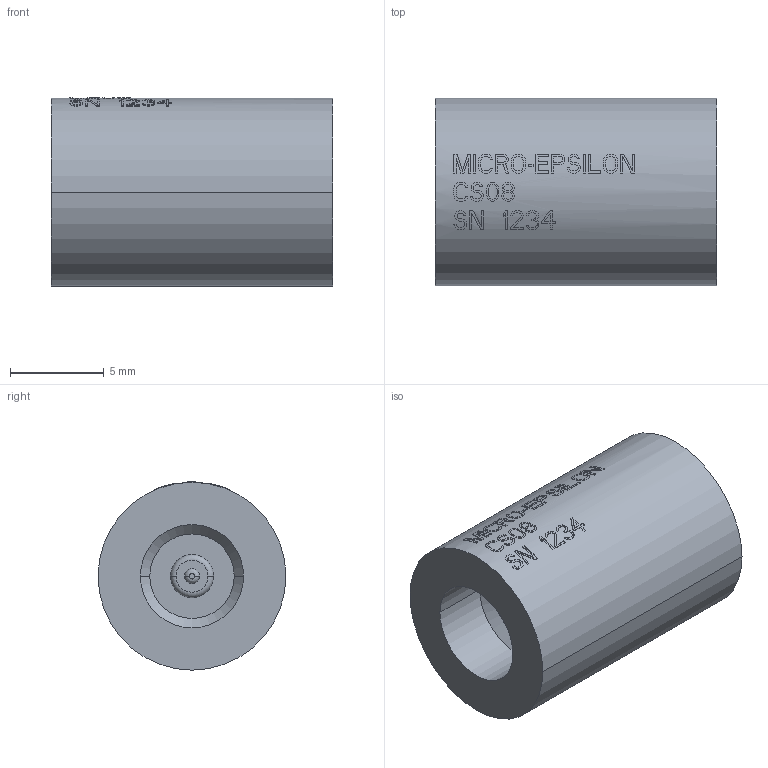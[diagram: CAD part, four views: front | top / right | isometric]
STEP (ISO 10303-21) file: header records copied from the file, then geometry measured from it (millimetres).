
FILE_DESCRIPTION((''),'2;1');
FILE_NAME('CS08','2009-08-26T',('11000065'),(''),'PRO/ENGINEER BY PARAMETRIC TECHNOLOGY CORPORATION, 2008490','PRO/ENGINEER BY PARAMETRIC TECHNOLOGY CORPORATION, 2008490','');
FILE_SCHEMA(('AUTOMOTIVE_DESIGN { 1 2 10303 214 0 1 1 1 }'));
Length unit declared in the file: millimetre
Products named in the file (1): CS08
Bounding box: 15 x 10 x 10.02 mm (x, y, z)
Volume: 1050.5 mm3; surface area: 753.2 mm2
Topology: 1 solids, 1 shells, 727 faces, 2049 edges, 1362 vertices
Faces by surface type: plane 668, cylinder 51, cone 4, torus 2, bspline 2
Entity records: 29762 total; most frequent: CARTESIAN_POINT 6040, ORIENTED_EDGE 4098, DIRECTION 2813, PRESENTATION_STYLE_ASSIGNMENT 2077, STYLED_ITEM 2052, CURVE_STYLE 2049, EDGE_CURVE 2049, VERTEX_POINT 1362
